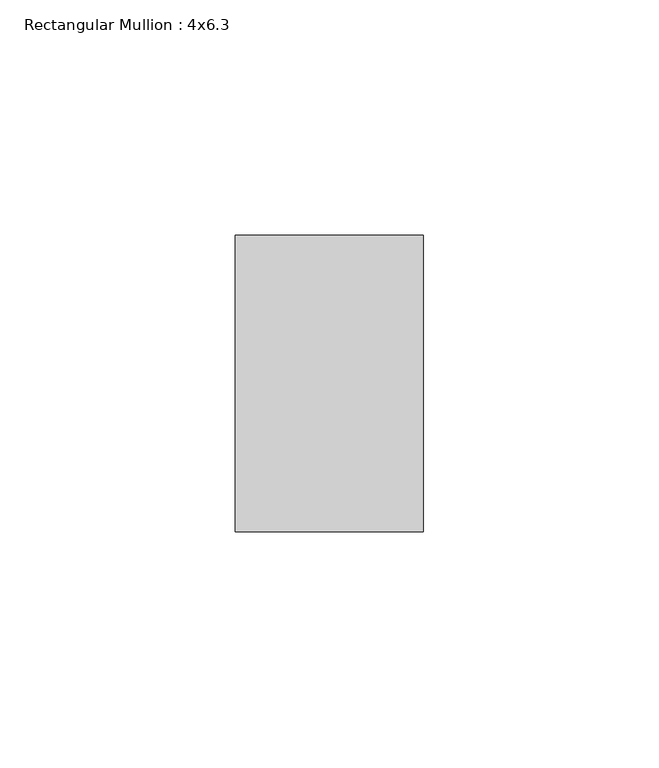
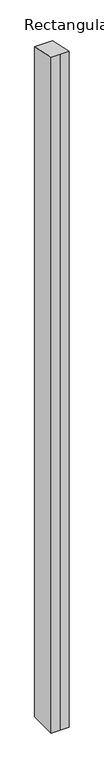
"""IFC4 building model written with IfcOpenShell, lengths in millimetres: member geometry, Rectangular Mullion : 4x6.3."""

from ifc_helpers import new_model, si_unit, origin, place, context, project, spatial, faceted_brep, source, transform, mapped, element, save


def rectangular_mullion_4x6_3_3e0bcdd5(model_context):
    return source(origin(), model_context, "Body", "Brep", [
        faceted_brep([(-20.0, 20.0, -1593.8719152), (-20.0, 83.0, -1593.8719152), (20.0, 83.0, -1593.8719152), (20.0, 20.0, -1593.8719152), (0.0, 20.0, -1593.8719152), (0.0, 20.0, -4.3995804), (-20.0, 20.0, -4.3995804), (20.0, 20.0, -4.3995804), (20.0, 83.0, -18.2582585), (-20.0, 83.0, -18.2582585)], [[[0, 1, 2, 3, 4]], [[5, 6, 0, 4]], [[7, 5, 4, 3]], [[8, 7, 3, 2]], [[9, 8, 2, 1]], [[6, 9, 1, 0]], [[6, 5, 7, 8, 9]]]),
    ])


if __name__ == "__main__":
    model = new_model("IFC4")
    model_context = context("Model", 3, world=origin())
    ifc_project = project(units=[si_unit("LENGTHUNIT", "METRE", prefix="MILLI")], contexts=[model_context])
    site = spatial("IfcSite", under=ifc_project)
    building = spatial("IfcBuilding", under=site)
    placement = place(None, origin())
    rectangular_mullion_4x6_3_shape = rectangular_mullion_4x6_3_3e0bcdd5(model_context)
    element("IfcMember", 1, ObjectType="Rectangular Mullion : 4x6.3", at=placement, inside=building, context=model_context, shape_type="MappedRepresentation", body=[
        mapped(rectangular_mullion_4x6_3_shape, transform((0.0, 0.0, 0.0), x_axis=(1.0, 0.0, 0.0), y_axis=(0.0, 1.0, 0.0), z_axis=(0.0, 0.0, 1.0))),
    ])
    save(model, "model.ifc")
